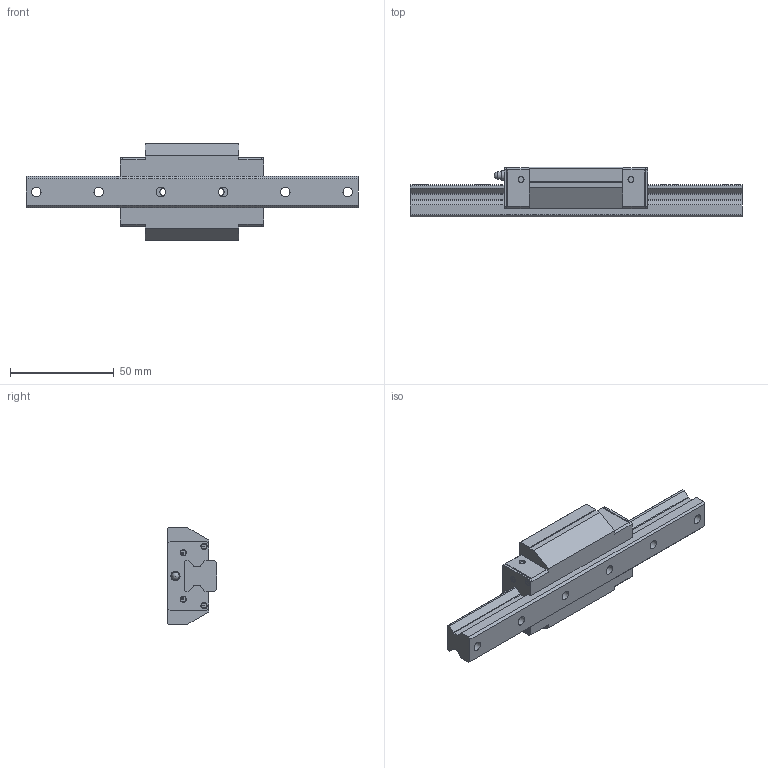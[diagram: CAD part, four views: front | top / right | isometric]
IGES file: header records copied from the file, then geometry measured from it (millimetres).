
Start section: Data from Parasolid IGES Translator 26.0.171, Copyright(c) 2006 Siemens PLM Software. All Rights Reserved.
Global section: file name: SRG15XA1SS-160LP_G20_0_PB107_45-4_0_0_0_1.igs; native system: By Siemens PLM Incorporated; preprocessor: XPlus GENERIC/IGES 26.0.171; author: Noname; organization: Noname; date: 20240523.093536; units: millimetre
Bounding box: 160 x 24 x 47 mm (x, y, z)
Surface area: 24695.6 mm2 (no closed solid volume)
Topology: 0 solids, 0 shells, 285 faces, 1439 edges, 1345 vertices
Faces by surface type: extrusion 227, revolution 58
